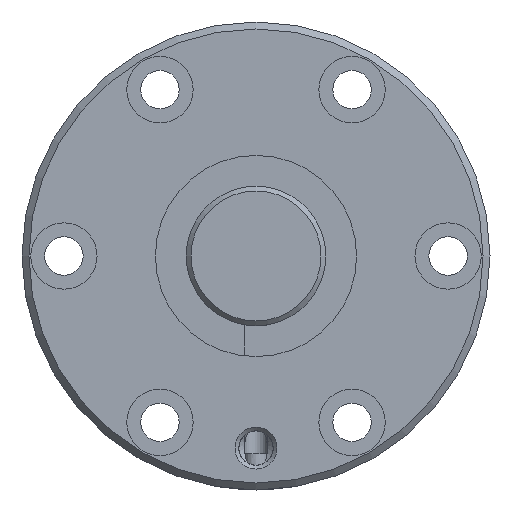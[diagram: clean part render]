
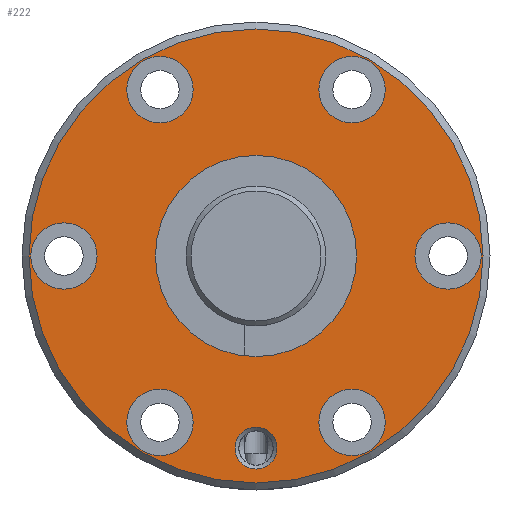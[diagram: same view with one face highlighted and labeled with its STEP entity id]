
A CAD part, left-side view. The second image highlights one B-rep face of the part: STEP entity #222.
In plain terms, the highlighted planar face has unit normal (-1, 0, 0).
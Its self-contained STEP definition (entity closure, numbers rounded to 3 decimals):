
#222 = ADVANCED_FACE( '', ( #386, #387, #388, #389, #390, #391, #392, #393, #394 ), #395, .T. );
#386 = FACE_BOUND( '', #613, .T. );
#387 = FACE_BOUND( '', #614, .T. );
#388 = FACE_BOUND( '', #615, .T. );
#389 = FACE_BOUND( '', #616, .T. );
#390 = FACE_BOUND( '', #617, .T. );
#391 = FACE_BOUND( '', #618, .T. );
#392 = FACE_BOUND( '', #619, .T. );
#393 = FACE_BOUND( '', #620, .T. );
#394 = FACE_OUTER_BOUND( '', #621, .T. );
#395 = PLANE( '', #622 );
#613 = EDGE_LOOP( '', ( #1086 ) );
#614 = EDGE_LOOP( '', ( #1087 ) );
#615 = EDGE_LOOP( '', ( #1088 ) );
#616 = EDGE_LOOP( '', ( #1089 ) );
#617 = EDGE_LOOP( '', ( #1090 ) );
#618 = EDGE_LOOP( '', ( #1091 ) );
#619 = EDGE_LOOP( '', ( #1092 ) );
#620 = EDGE_LOOP( '', ( #1093 ) );
#621 = EDGE_LOOP( '', ( #1094 ) );
#622 = AXIS2_PLACEMENT_3D( '', #1095, #1096, #1097 );
#1086 = ORIENTED_EDGE( '', *, *, #1366, .T. );
#1087 = ORIENTED_EDGE( '', *, *, #1367, .T. );
#1088 = ORIENTED_EDGE( '', *, *, #1273, .T. );
#1089 = ORIENTED_EDGE( '', *, *, #1365, .T. );
#1090 = ORIENTED_EDGE( '', *, *, #1368, .T. );
#1091 = ORIENTED_EDGE( '', *, *, #1369, .T. );
#1092 = ORIENTED_EDGE( '', *, *, #1370, .T. );
#1093 = ORIENTED_EDGE( '', *, *, #1371, .T. );
#1094 = ORIENTED_EDGE( '', *, *, #1372, .F. );
#1095 = CARTESIAN_POINT( '', ( 0., 32.5, 0. ) );
#1096 = DIRECTION( '', ( -1., 0., 0. ) );
#1097 = DIRECTION( '', ( 0., 0., 1. ) );
#1273 = EDGE_CURVE( '', #1443, #1443, #1444, .T. );
#1365 = EDGE_CURVE( '', #1601, #1601, #1602, .T. );
#1366 = EDGE_CURVE( '', #1603, #1603, #1604, .T. );
#1367 = EDGE_CURVE( '', #1605, #1605, #1606, .F. );
#1368 = EDGE_CURVE( '', #1607, #1607, #1608, .T. );
#1369 = EDGE_CURVE( '', #1609, #1609, #1610, .T. );
#1370 = EDGE_CURVE( '', #1611, #1611, #1612, .T. );
#1371 = EDGE_CURVE( '', #1613, #1613, #1614, .T. );
#1372 = EDGE_CURVE( '', #1615, #1615, #1616, .T. );
#1443 = VERTEX_POINT( '', #1812 );
#1444 = CIRCLE( '', #1813, 3. );
#1601 = VERTEX_POINT( '', #2378 );
#1602 = CIRCLE( '', #2379, 4.75 );
#1603 = VERTEX_POINT( '', #2380 );
#1604 = CIRCLE( '', #2381, 14.4 );
#1605 = VERTEX_POINT( '', #2382 );
#1606 = CIRCLE( '', #2383, 4.75 );
#1607 = VERTEX_POINT( '', #2384 );
#1608 = CIRCLE( '', #2385, 4.75 );
#1609 = VERTEX_POINT( '', #2386 );
#1610 = CIRCLE( '', #2387, 4.75 );
#1611 = VERTEX_POINT( '', #2388 );
#1612 = CIRCLE( '', #2389, 4.75 );
#1613 = VERTEX_POINT( '', #2390 );
#1614 = CIRCLE( '', #2391, 4.75 );
#1615 = VERTEX_POINT( '', #2392 );
#1616 = CIRCLE( '', #2393, 32.5 );
#1812 = CARTESIAN_POINT( '', ( 0., 0., -30.5 ) );
#1813 = AXIS2_PLACEMENT_3D( '', #2543, #2544, #2545 );
#2378 = CARTESIAN_POINT( '', ( 0., 13.75, 19.066 ) );
#2379 = AXIS2_PLACEMENT_3D( '', #2699, #2700, #2701 );
#2380 = CARTESIAN_POINT( '', ( 0., 0., -14.4 ) );
#2381 = AXIS2_PLACEMENT_3D( '', #2702, #2703, #2704 );
#2382 = CARTESIAN_POINT( '', ( 0., 27.5, 4.75 ) );
#2383 = AXIS2_PLACEMENT_3D( '', #2705, #2706, #2707 );
#2384 = CARTESIAN_POINT( '', ( 0., -13.75, -28.566 ) );
#2385 = AXIS2_PLACEMENT_3D( '', #2708, #2709, #2710 );
#2386 = CARTESIAN_POINT( '', ( 0., -13.75, 19.066 ) );
#2387 = AXIS2_PLACEMENT_3D( '', #2711, #2712, #2713 );
#2388 = CARTESIAN_POINT( '', ( 0., 13.75, -28.566 ) );
#2389 = AXIS2_PLACEMENT_3D( '', #2714, #2715, #2716 );
#2390 = CARTESIAN_POINT( '', ( 0., -27.5, -4.75 ) );
#2391 = AXIS2_PLACEMENT_3D( '', #2717, #2718, #2719 );
#2392 = CARTESIAN_POINT( '', ( 0., 0., -32.5 ) );
#2393 = AXIS2_PLACEMENT_3D( '', #2720, #2721, #2722 );
#2543 = CARTESIAN_POINT( '', ( 0., 0., -27.5 ) );
#2544 = DIRECTION( '', ( 1., 0., 0. ) );
#2545 = DIRECTION( '', ( 0., 0., -1. ) );
#2699 = CARTESIAN_POINT( '', ( 0., 13.75, 23.816 ) );
#2700 = DIRECTION( '', ( 1., 0., 0. ) );
#2701 = DIRECTION( '', ( 0., 0., -1. ) );
#2702 = CARTESIAN_POINT( '', ( 0., 0., 0. ) );
#2703 = DIRECTION( '', ( 1., 0., 0. ) );
#2704 = DIRECTION( '', ( 0., 0., -1. ) );
#2705 = CARTESIAN_POINT( '', ( 0., 27.5, 0. ) );
#2706 = DIRECTION( '', ( -1., 0., 0. ) );
#2707 = DIRECTION( '', ( 0., 0., 1. ) );
#2708 = CARTESIAN_POINT( '', ( 0., -13.75, -23.816 ) );
#2709 = DIRECTION( '', ( 1., 0., 0. ) );
#2710 = DIRECTION( '', ( 0., 0., -1. ) );
#2711 = CARTESIAN_POINT( '', ( 0., -13.75, 23.816 ) );
#2712 = DIRECTION( '', ( 1., 0., 0. ) );
#2713 = DIRECTION( '', ( 0., 0., -1. ) );
#2714 = CARTESIAN_POINT( '', ( 0., 13.75, -23.816 ) );
#2715 = DIRECTION( '', ( 1., 0., 0. ) );
#2716 = DIRECTION( '', ( 0., 0., -1. ) );
#2717 = CARTESIAN_POINT( '', ( 0., -27.5, 0. ) );
#2718 = DIRECTION( '', ( 1., 0., 0. ) );
#2719 = DIRECTION( '', ( 0., 0., -1. ) );
#2720 = CARTESIAN_POINT( '', ( 0., 0., 0. ) );
#2721 = DIRECTION( '', ( 1., 0., 0. ) );
#2722 = DIRECTION( '', ( 0., 0., -1. ) );
